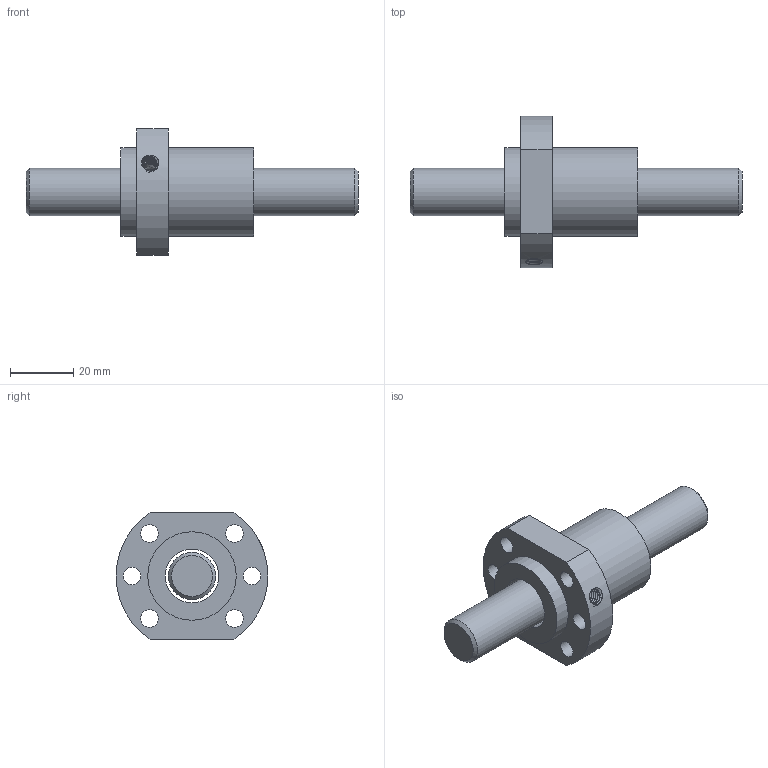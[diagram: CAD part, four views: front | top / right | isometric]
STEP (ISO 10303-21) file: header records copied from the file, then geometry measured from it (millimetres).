
FILE_DESCRIPTION(/* description */ ('Unknown','CAx-IF Rec.Pracs.---Representation and Presentation of Product Manufacturing Information (PMI)---4.0---2014-10-13','CAx-IF Rec.Pracs.---3D Tessellated Geometry---0.4---2014-09-14','2;1'),/* implementation_level */ '2;1');
FILE_NAME(/* name */ 'SFA1610-2.8',/* time_stamp */ '2020-12-08T08:09:37+08:00',/* author */ ('Unknown'),/* organization */ ('Unknown'),/* preprocessor_version */ 'ST-DEVELOPER v16.7',/* originating_system */ 'Solid Edge',/* authorisation */ 'Unknown');
FILE_SCHEMA (('AP242_MANAGED_MODEL_BASED_3D_ENGINEERING_MIM_LF { 1 0 10303 442 1 1 4 }'));
Length unit declared in the file: millimetre
Products named in the file (1): SFA1610-2
Bounding box: 105 x 48 x 40 mm (x, y, z)
Volume: 43625.4 mm3; surface area: 15685.5 mm2
Topology: 2 solids, 2 shells, 30 faces, 70 edges, 46 vertices
Faces by surface type: cylinder 16, plane 9, cone 3, bspline 2
Full cylindrical faces by diameter (mm): 4 x1, 4.917 x1, 5.5 x6, 15 x1, 17 x1, 28 x2
Entity records: 2927 total; most frequent: CARTESIAN_POINT 2225, DIRECTION 134, ORIENTED_EDGE 100, AXIS2_PLACEMENT_3D 64, EDGE_LOOP 63, FACE_BOUND 63, EDGE_CURVE 50, VERTEX_POINT 41
